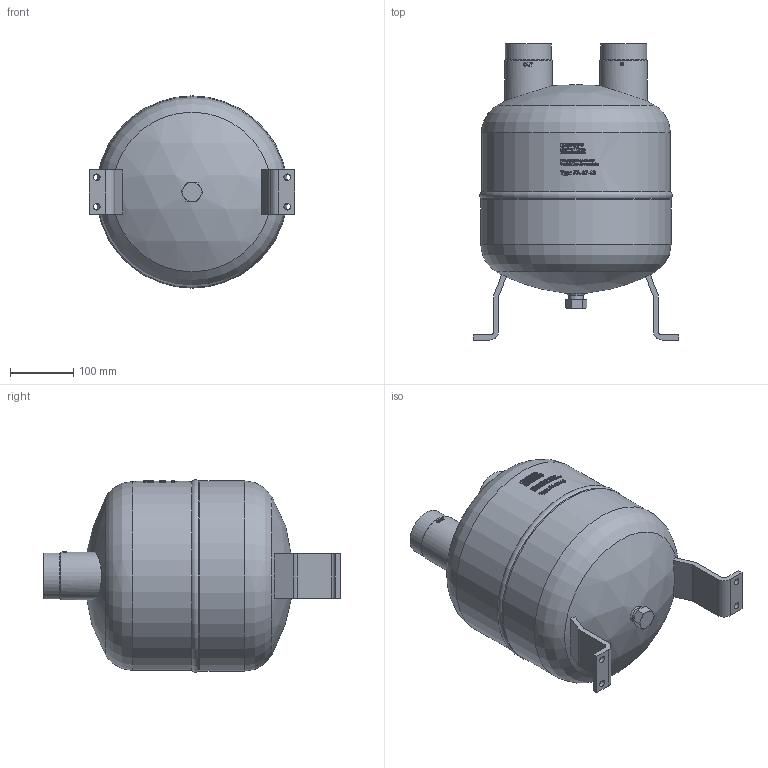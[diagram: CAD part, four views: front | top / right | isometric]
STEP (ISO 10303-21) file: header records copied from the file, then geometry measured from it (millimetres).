
FILE_DESCRIPTION(/* description */ (''),/* implementation_level */ '2;1');
FILE_NAME(/* name */ 'P:\FA\FA-67-18\FA-67-18.stp',/* time_stamp */ '2017-10-05T08:01:19+02:00',/* author */ ('neufeld'),/* organization */ (''),/* preprocessor_version */ 'ST-DEVELOPER v16.1',/* originating_system */ 'Autodesk Inventor 2016',/* authorisation */ '');
FILE_SCHEMA (('AUTOMOTIVE_DESIGN { 1 0 10303 214 3 1 1 }'));
Length unit declared in the file: millimetre
Products named in the file (1): FA-67-18
Bounding box: 324 x 466.9 x 302.97 mm (x, y, z)
Volume: 20146439.6 mm3; surface area: 461581.8 mm2
Topology: 1 solids, 1 shells, 1446 faces, 3903 edges, 2594 vertices
Faces by surface type: plane 751, bspline 522, cylinder 149, cone 17, torus 5, sphere 2
Full cylindrical faces by diameter (mm): 10.5 x4, 22.5 x1, 23.6 x1, 67.3 x2, 72.5 x2, 75.4 x2, 298 x1, 300 x1
Entity records: 57259 total; most frequent: CARTESIAN_POINT 23722, ORIENTED_EDGE 7754, DIRECTION 5583, EDGE_CURVE 3877, VERTEX_POINT 2592, LINE 1881, VECTOR 1881, AXIS2_PLACEMENT_3D 1851
